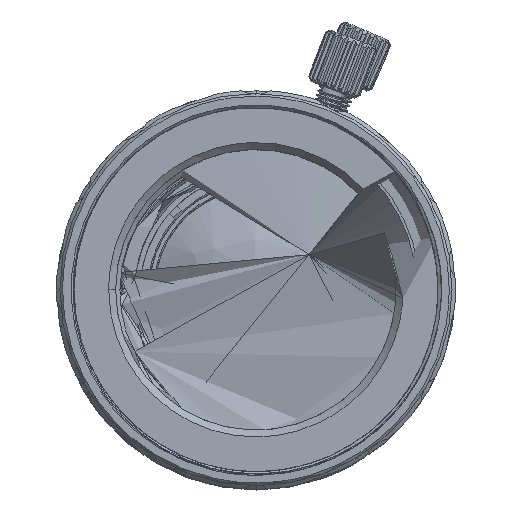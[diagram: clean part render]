
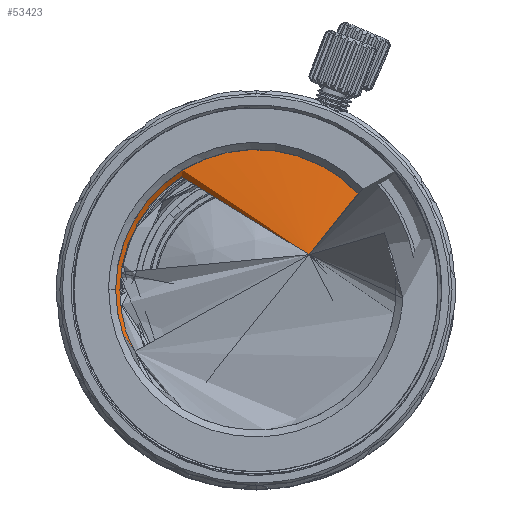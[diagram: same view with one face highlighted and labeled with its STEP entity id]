
A CAD part, top view. The second image highlights one B-rep face of the part: STEP entity #53423.
In plain terms, the highlighted conical face has half-angle 45 degrees and reference radius 9.828 mm.
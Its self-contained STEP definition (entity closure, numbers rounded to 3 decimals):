
#1614 = CARTESIAN_POINT ( 'NONE',  ( -10.2, 0., 34.37 ) ) ;
#3758 = AXIS2_PLACEMENT_3D ( 'NONE', #72776, #19440, #46110 ) ;
#4203 = ORIENTED_EDGE ( 'NONE', *, *, #80098, .T. ) ;
#4312 = CARTESIAN_POINT ( 'NONE',  ( -9.81, -1.556, 34.072 ) ) ;
#4859 = CARTESIAN_POINT ( 'NONE',  ( 0., 0., 33.998 ) ) ;
#7832 = ORIENTED_EDGE ( 'NONE', *, *, #43943, .T. ) ;
#13932 = B_SPLINE_CURVE_WITH_KNOTS ( 'NONE', 3,
 ( #66447, #39892, #59458, #4312, #50524, #51384 ),
 .UNSPECIFIED., .F., .F.,
 ( 4, 2, 4 ),
 ( 0., 0.5, 1. ),
 .UNSPECIFIED. ) ;
#15941 = DIRECTION ( 'NONE',  ( 0., 0., 1. ) ) ;
#16411 = FACE_OUTER_BOUND ( 'NONE', #23095, .T. ) ;
#19440 = DIRECTION ( 'NONE',  ( 0., 0., 1. ) ) ;
#20861 = CARTESIAN_POINT ( 'NONE',  ( -9.882, 0.932, 34.052 ) ) ;
#21461 = CARTESIAN_POINT ( 'NONE',  ( -7.21, 6.773, 34.019 ) ) ;
#22029 = VERTEX_POINT ( 'NONE', #57926 ) ;
#22088 = CARTESIAN_POINT ( 'NONE',  ( 0., 0., 34.37 ) ) ;
#23095 = EDGE_LOOP ( 'NONE', ( #65845, #7832, #4203, #57446, #59549 ) ) ;
#26240 = VERTEX_POINT ( 'NONE', #1614 ) ;
#26967 = CARTESIAN_POINT ( 'NONE',  ( -7.822, 6.063, 34.023 ) ) ;
#32242 = CARTESIAN_POINT ( 'NONE',  ( -9.886, 0., 34.057 ) ) ;
#33356 = CARTESIAN_POINT ( 'NONE',  ( -8.826, 4.5, 34.033 ) ) ;
#33488 = CIRCLE ( 'NONE', #3758, 10.2 ) ;
#33948 = CARTESIAN_POINT ( 'NONE',  ( -5.812, 7.993, 34.009 ) ) ;
#35129 = CARTESIAN_POINT ( 'NONE',  ( 7.921, 5.989, 34.042 ) ) ;
#39892 = CARTESIAN_POINT ( 'NONE',  ( -9.197, -3.814, 34.096 ) ) ;
#40218 = CARTESIAN_POINT ( 'NONE',  ( -8.796, -4.488, 33.867 ) ) ;
#41753 = CARTESIAN_POINT ( 'NONE',  ( 8.932, 4.105, 34. ) ) ;
#42330 = CARTESIAN_POINT ( 'NONE',  ( 5.634, 8.255, 34.106 ) ) ;
#42446 = EDGE_CURVE ( 'NONE', #22029, #22029, #70026, .T. ) ;
#43943 = EDGE_CURVE ( 'NONE', #26240, #76155, #33488, .T. ) ;
#44028 = EDGE_CURVE ( 'NONE', #45159, #22029, #59038, .T. ) ;
#45159 = VERTEX_POINT ( 'NONE', #63753 ) ;
#46110 = DIRECTION ( 'NONE',  ( 1., 0., 0. ) ) ;
#49335 = DIRECTION ( 'NONE',  ( 1., 0., 0. ) ) ;
#50524 = CARTESIAN_POINT ( 'NONE',  ( -9.894, -0.777, 34.064 ) ) ;
#51354 = DIRECTION ( 'NONE',  ( 0., 0., 1. ) ) ;
#51384 = CARTESIAN_POINT ( 'NONE',  ( -9.886, 0., 34.057 ) ) ;
#53423 = ADVANCED_FACE ( 'NONE', ( #16411 ), #57985, .F. ) ;
#55432 = CARTESIAN_POINT ( 'NONE',  ( 8.932, 4.105, 34. ) ) ;
#57446 = ORIENTED_EDGE ( 'NONE', *, *, #44028, .T. ) ;
#57926 = CARTESIAN_POINT ( 'NONE',  ( 3.86, 2.563, 34.979 ) ) ;
#57985 = CONICAL_SURFACE ( 'NONE', #64730, 9.828, 0.785 ) ;
#59038 = B_SPLINE_CURVE_WITH_KNOTS ( 'NONE', 3,
 ( #32242, #20861, #80054, #66701, #33356, #26967, #21461, #33948, #67270, #80630 ),
 .UNSPECIFIED., .F., .F.,
 ( 4, 2, 2, 2, 4 ),
 ( 0., 0.25, 0.5, 0.75, 1. ),
 .UNSPECIFIED. ) ;
#59458 = CARTESIAN_POINT ( 'NONE',  ( -9.462, -3.075, 34.088 ) ) ;
#59549 = ORIENTED_EDGE ( 'NONE', *, *, #42446, .T. ) ;
#63753 = CARTESIAN_POINT ( 'NONE',  ( -9.886, 0., 34.057 ) ) ;
#64730 = AXIS2_PLACEMENT_3D ( 'NONE', #4859, #51354, #72474 ) ;
#65185 = CIRCLE ( 'NONE', #76659, 10.2 ) ;
#65845 = ORIENTED_EDGE ( 'NONE', *, *, #72299, .T. ) ;
#66447 = CARTESIAN_POINT ( 'NONE',  ( -8.85, -4.514, 34.104 ) ) ;
#66701 = CARTESIAN_POINT ( 'NONE',  ( -9.216, 3.646, 34.038 ) ) ;
#67270 = CARTESIAN_POINT ( 'NONE',  ( -5.027, 8.503, 34.005 ) ) ;
#70026 = B_SPLINE_CURVE_WITH_KNOTS ( 'NONE', 3,
 ( #55432, #82111, #35129, #82393, #42330, #41753 ),
 .UNSPECIFIED., .F., .F.,
 ( 4, 2, 4 ),
 ( 0., 0.5, 1. ),
 .UNSPECIFIED. ) ;
#72299 = EDGE_CURVE ( 'NONE', #22029, #26240, #65185, .T. ) ;
#72474 = DIRECTION ( 'NONE',  ( 0., -1., 0. ) ) ;
#72776 = CARTESIAN_POINT ( 'NONE',  ( 0., 0., 34.37 ) ) ;
#76155 = VERTEX_POINT ( 'NONE', #40218 ) ;
#76659 = AXIS2_PLACEMENT_3D ( 'NONE', #22088, #15941, #49335 ) ;
#80054 = CARTESIAN_POINT ( 'NONE',  ( -9.744, 1.862, 34.047 ) ) ;
#80098 = EDGE_CURVE ( 'NONE', #76155, #45159, #13932, .T. ) ;
#80630 = CARTESIAN_POINT ( 'NONE',  ( -4.187, 8.894, 34. ) ) ;
#82111 = CARTESIAN_POINT ( 'NONE',  ( 8.507, 5.081, 34.021 ) ) ;
#82393 = CARTESIAN_POINT ( 'NONE',  ( 6.484, 7.576, 34.085 ) ) ;
